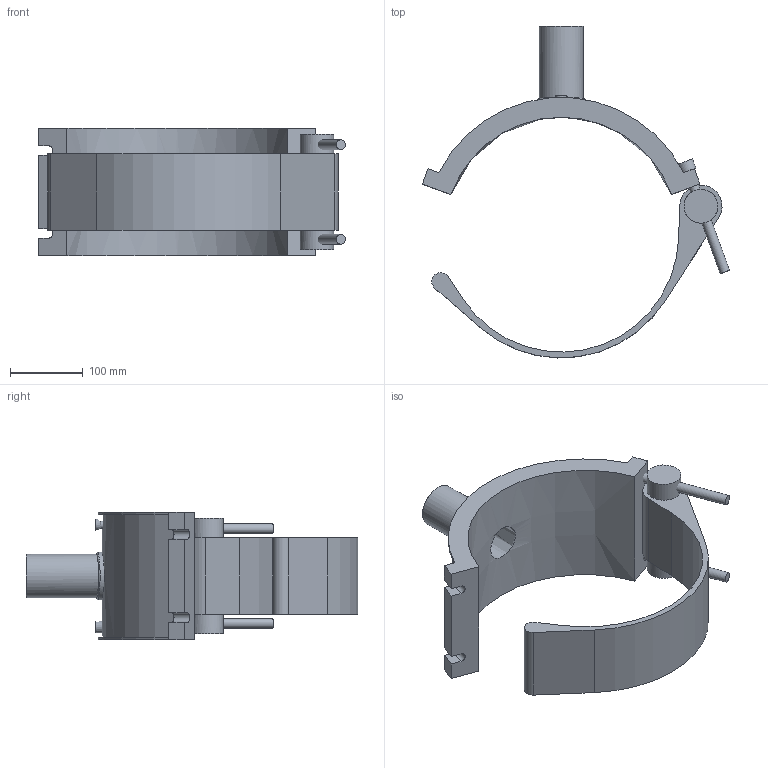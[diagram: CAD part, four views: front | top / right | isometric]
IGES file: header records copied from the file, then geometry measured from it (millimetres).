
Global section: file name: 5958BB03120020.ipt; native system: Autodesk Inventor 2019; preprocessor: unknown; author: KIM; date: 20210830.101307; units: inch
Bounding box: 422.89 x 457.15 x 176.02 mm (x, y, z)
Volume: 2876498.1 mm3; surface area: 402142.8 mm2
Topology: 5 solids, 5 shells, 65 faces, 135 edges, 91 vertices
Faces by surface type: plane 37, cylinder 17, revolution 7, cone 3, bspline 1
Full cylindrical faces by diameter (mm): 4 x2, 13.583 x2, 22.638 x2, 46.57 x2, 60.1 x1, 66.11 x1
